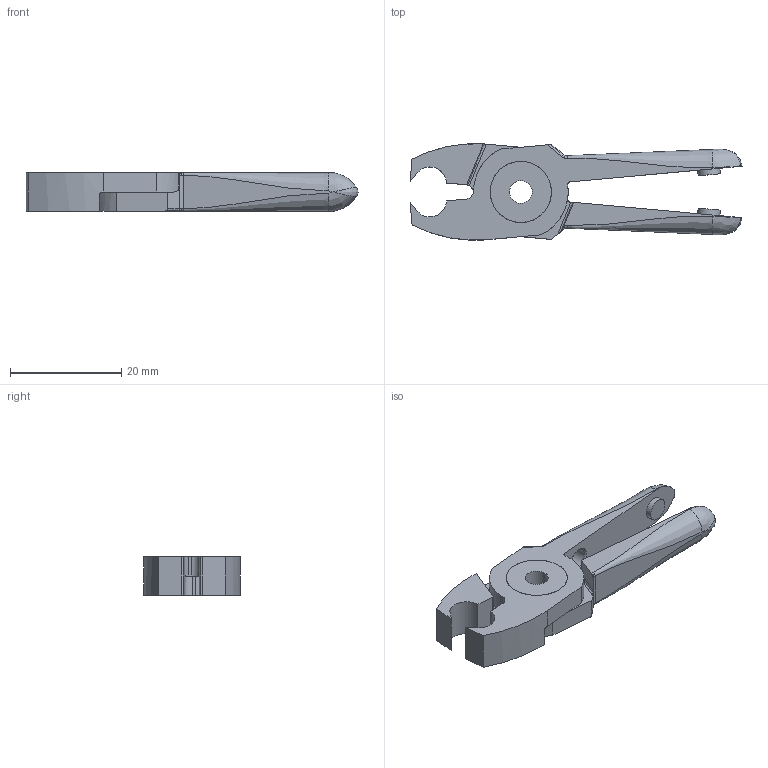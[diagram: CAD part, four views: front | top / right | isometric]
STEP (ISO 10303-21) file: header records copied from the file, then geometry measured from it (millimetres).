
FILE_DESCRIPTION (( 'STEP AP214' ), '1' );
FILE_NAME ('N3AE.STEP', '2019-11-29T03:52:27', ( '微软用户' ), ( '微软中国' ), 'SwSTEP 2.0', 'SolidWorks 2016', '' );
FILE_SCHEMA (( 'AUTOMOTIVE_DESIGN' ));
Length unit declared in the file: millimetre
Products named in the file (4): BR2; BR1; BS; N3AE
Assembly tree (3 placements, depth 2):
  N3AE
    BS
    BR1
    BR2
Bounding box: 59.66 x 17.28 x 7 mm (x, y, z)
Volume: 3946.7 mm3; surface area: 3786.7 mm2
Topology: 3 solids, 3 shells, 121 faces, 310 edges, 193 vertices
Faces by surface type: bspline 67, plane 34, cylinder 16, cone 4
Entity records: 10056 total; most frequent: CARTESIAN_POINT 7576, ORIENTED_EDGE 608, DIRECTION 315, EDGE_CURVE 304, VERTEX_POINT 193, EDGE_LOOP 131, VECTOR 131, LINE 131
